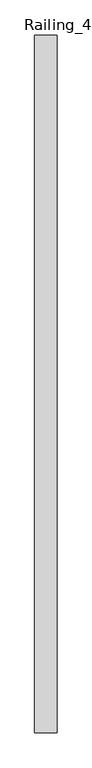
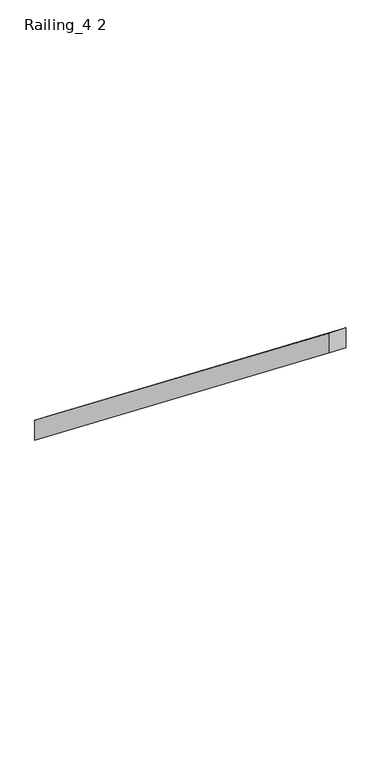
"""IFC4 building model written with IfcOpenShell, lengths in millimetres: railing geometry, Railing_4 2."""

from ifc_helpers import new_model, si_unit, frame, origin, place, context, project, spatial, polyline, outline, extrude, source, transform, mapped, element, save


def railing_4_2_75915b71(model_context):
    return source(origin(), model_context, "Body", "SweptSolid", [
        extrude(outline(polyline([(3384.6379226, 1463.2977971), (3384.6379226, 1398.6573534), (1802.340544, 2643.6832804), (1802.340544, 2708.323724), (3384.6379226, 1463.2977971)])), frame((5029.2, 0.0, 0.0), z_axis=(1.0, 0.0, 0.0), x_axis=(0.0, 1.0, 0.0)), (0.0, 0.0, 1.0), 50.8),
    ])


if __name__ == "__main__":
    model = new_model("IFC4")
    model_context = context("Model", 3, world=origin())
    ifc_project = project(units=[si_unit("LENGTHUNIT", "METRE", prefix="MILLI")], contexts=[model_context])
    site = spatial("IfcSite", under=ifc_project)
    building = spatial("IfcBuilding", under=site)
    placement = place(None, origin())
    railing_4_2_shape = railing_4_2_75915b71(model_context)
    element("IfcRailing", 1, ObjectType="Railing_4 2", at=placement, inside=building, context=model_context, shape_type="MappedRepresentation", body=[
        mapped(railing_4_2_shape, transform((0.0, 0.0, 0.0), x_axis=(1.0, 0.0, 0.0), y_axis=(0.0, 1.0, 0.0), z_axis=(0.0, 0.0, 1.0))),
    ])
    save(model, "model.ifc")
